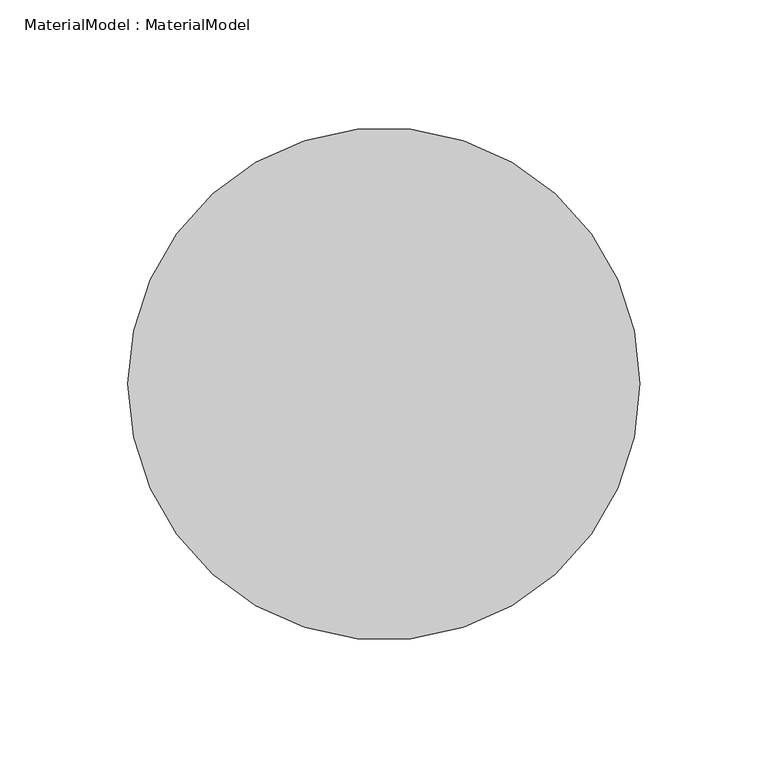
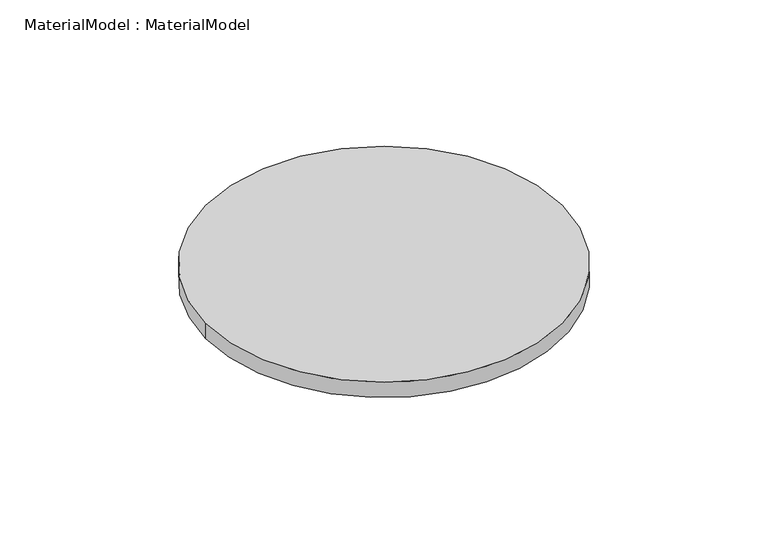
"""IFC4 building model written with IfcOpenShell, lengths in millimetres: proxy geometry, MaterialModel : MaterialModel."""

import ifcopenshell
import ifcopenshell.guid

model = None  # the IFC model being written
_history = None  # IfcOwnerHistory: only IFC2X3 demands one
_inside = {}  # id of a spatial element -> (the spatial element, [elements in it])
_under = {}  # id of a project, library or spatial element -> (it, [spatial elements below it])
_declared = {}  # id of a project -> (the project, [libraries it declares])
_typed = {}  # id of a type object -> (the type object, [elements of that type])
_made_of = {}  # id of a material, layer set ... -> (it, [elements and type objects made of it])


def new_model(schema):
    """Start an empty IFC model of exactly this schema.

    Asked for "IFC4X3", IfcOpenShell would pick the latest addendum, in which some entities
    have other attributes; the version numbers below select the first issue.
    IFC2X3 requires an IfcOwnerHistory on every rooted entity: one is made here for all.
    """
    global model, _history
    if schema == "IFC4X3":
        model = ifcopenshell.file(schema_version=(4, 3, 0, 0))
    else:
        model = ifcopenshell.file(schema=schema)
    _inside.clear()
    _under.clear()
    _declared.clear()
    _typed.clear()
    _made_of.clear()
    _history = None
    if model.schema == "IFC2X3":
        org = make("IfcOrganization", Name="unknown")
        user = make(
            "IfcPersonAndOrganization",
            ThePerson=make("IfcPerson", FamilyName="unknown"),
            TheOrganization=org,
        )
        app = make(
            "IfcApplication",
            ApplicationDeveloper=org,
            Version="unknown",
            ApplicationFullName="unknown",
            ApplicationIdentifier="unknown",
        )
        _history = make(
            "IfcOwnerHistory",
            OwningUser=user,
            OwningApplication=app,
            ChangeAction="ADDED",
            CreationDate=0,
        )
    return model


def make(cls, **values):
    """One entity of the class cls with the attributes given. An attribute that is None is left unset."""
    return model.create_entity(
        cls, **{name: value for name, value in values.items() if value is not None}
    )


def rooted(cls, **values):
    """An entity with a GlobalId (a new one), such as an element, a storey or a relation."""
    return make(cls, GlobalId=ifcopenshell.guid.new(), OwnerHistory=_history, **values)


def si_unit(unit_type, name, prefix=None):
    """IfcSIUnit, for example si_unit("LENGTHUNIT", "METRE", prefix="MILLI")."""
    return make("IfcSIUnit", UnitType=unit_type, Prefix=prefix, Name=name)


def assignment(units):
    """IfcUnitAssignment: the units of a project."""
    return None if units is None else make("IfcUnitAssignment", Units=units)


def point(xyz):
    """IfcCartesianPoint."""
    return None if xyz is None else make("IfcCartesianPoint", Coordinates=xyz)


def direction(xyz):
    """IfcDirection."""
    return None if xyz is None else make("IfcDirection", DirectionRatios=xyz)


def frame(location, z_axis=None, x_axis=None):
    """IfcAxis2Placement3D, a coordinate frame: its origin and axes. An axis left out is left unset."""
    return make(
        "IfcAxis2Placement3D",
        Location=point(location),
        Axis=direction(z_axis),
        RefDirection=direction(x_axis),
    )


def frame_2d(location, x_axis=None):
    """IfcAxis2Placement2D, a coordinate frame in the plane: its origin and x axis."""
    return make(
        "IfcAxis2Placement2D", Location=point(location), RefDirection=direction(x_axis)
    )


def origin():
    """The frame at (0, 0, 0) with its axes left unset."""
    return frame((0.0, 0.0, 0.0))


def origin_with_axes():
    """The frame at (0, 0, 0) with the z axis (0, 0, 1) and the x axis (1, 0, 0) written out."""
    return frame((0.0, 0.0, 0.0), z_axis=(0.0, 0.0, 1.0), x_axis=(1.0, 0.0, 0.0))


def origin_2d():
    """The frame at (0, 0) in the plane with its x axis left unset."""
    return frame_2d((0.0, 0.0))


def place(relative_to, where):
    """IfcLocalPlacement: puts the frame where relative to a parent placement (None: the world)."""
    return make(
        "IfcLocalPlacement", PlacementRelTo=relative_to, RelativePlacement=where
    )


def context(
    kind, dimensions, precision=None, world=None, true_north=None, identifier=None
):
    """IfcGeometricRepresentationContext, for example the 3D "Model" context."""
    return make(
        "IfcGeometricRepresentationContext",
        ContextIdentifier=identifier,
        ContextType=kind,
        CoordinateSpaceDimension=dimensions,
        Precision=precision,
        WorldCoordinateSystem=world,
        TrueNorth=true_north,
    )


def project(units=None, contexts=None):
    """IfcProject with its units and contexts."""
    return rooted(
        "IfcProject",
        Name="project",
        RepresentationContexts=contexts,
        UnitsInContext=assignment(units),
    )


def spatial(cls, under=None, at=None, **own):
    """A site, building, storey or space (cls), placed at a placement, below another one or the project."""
    s = rooted(cls, ObjectPlacement=at, **own)
    if under is not None:
        _under.setdefault(under.id(), (under, []))[1].append(s)
    return s


def circle_curve(where, radius):
    """IfcCircle in the frame where."""
    return make("IfcCircle", Position=where, Radius=radius)


def trimmed(basis, trim1, trim2, sense, master):
    """IfcTrimmedCurve: the piece of a basis curve between two trims."""
    return make(
        "IfcTrimmedCurve",
        BasisCurve=basis,
        Trim1=trim1,
        Trim2=trim2,
        SenseAgreement=sense,
        MasterRepresentation=master,
    )


def segment(curve, same_sense, transition):
    """IfcCompositeCurveSegment."""
    return make(
        "IfcCompositeCurveSegment",
        Transition=transition,
        SameSense=same_sense,
        ParentCurve=curve,
    )


def composite_curve(segments, self_intersect=None):
    """IfcCompositeCurve: segments joined end to end."""
    return make("IfcCompositeCurve", Segments=segments, SelfIntersect=self_intersect)


def outline(outer, holes=None, kind="AREA"):
    """IfcArbitraryClosedProfileDef: a profile drawn as a closed curve; with holes, ...WithVoids."""
    if holes is None:
        return make("IfcArbitraryClosedProfileDef", ProfileType=kind, OuterCurve=outer)
    return make(
        "IfcArbitraryProfileDefWithVoids",
        ProfileType=kind,
        OuterCurve=outer,
        InnerCurves=holes,
    )


def extrude(swept, where, along, depth):
    """IfcExtrudedAreaSolid: the profile swept, set in the frame where, extruded along a direction by depth."""
    return make(
        "IfcExtrudedAreaSolid",
        SweptArea=swept,
        Position=where,
        ExtrudedDirection=direction(along),
        Depth=depth,
    )


def shape(context_of_items, identifier, shape_type, items):
    """IfcShapeRepresentation: the items that make up one representation, for example the "Body"."""
    return make(
        "IfcShapeRepresentation",
        ContextOfItems=context_of_items,
        RepresentationIdentifier=identifier,
        RepresentationType=shape_type,
        Items=items,
    )


def source(mapping_origin, context_of_items, identifier, shape_type, items):
    """IfcRepresentationMap: a shape defined once, which mapped items show again and again."""
    return make(
        "IfcRepresentationMap",
        MappingOrigin=mapping_origin,
        MappedRepresentation=shape(context_of_items, identifier, shape_type, items),
    )


def transform(
    local_origin,
    x_axis=None,
    y_axis=None,
    z_axis=None,
    scale=None,
    scale2=None,
    scale3=None,
    uniform=True,
):
    """IfcCartesianTransformationOperator3D, or its non-uniform kind. x_axis, y_axis, z_axis: its Axis1, 2, 3."""
    if uniform:
        return make(
            "IfcCartesianTransformationOperator3D",
            Axis1=direction(x_axis),
            Axis2=direction(y_axis),
            LocalOrigin=point(local_origin),
            Scale=scale,
            Axis3=direction(z_axis),
        )
    return make(
        "IfcCartesianTransformationOperator3DnonUniform",
        Axis1=direction(x_axis),
        Axis2=direction(y_axis),
        LocalOrigin=point(local_origin),
        Scale=scale,
        Axis3=direction(z_axis),
        Scale2=scale2,
        Scale3=scale3,
    )


def mapped(mapping_source, mapping_target):
    """IfcMappedItem: shows the shape of a source again, moved by a transform."""
    return make(
        "IfcMappedItem", MappingSource=mapping_source, MappingTarget=mapping_target
    )


def made_of(thing, what):
    """Note that an element or type object is made of a material, layer set ...; save() writes the relation."""
    if what is not None:
        _made_of.setdefault(what.id(), (what, []))[1].append(thing)
    return thing


def element(
    cls,
    number,
    at=None,
    inside=None,
    cuts=None,
    type_object=None,
    material=None,
    context=None,
    identifier="Body",
    shape_type=None,
    held_by="IfcProductDefinitionShape",
    body=None,
    shapes=None,
    **own,
):
    """One element of the class cls, such as IfcWall. Its Tag is "e" and its number.

    at: its placement. inside: the storey or other place that contains it. cuts: it is an
    opening in that element (IfcRelVoidsElement). A single representation is given by context,
    identifier, shape_type and body (its items); several are given by shapes. held_by: the class
    of the entity that holds the representations. save() writes the other relations.
    """
    e = rooted(cls, Tag="e%d" % number, ObjectPlacement=at, **own)
    if body is not None:
        shapes = [shape(context, identifier, shape_type, body)]
    if shapes is not None:
        e.Representation = make(held_by, Representations=shapes)
    if inside is not None:
        _inside.setdefault(inside.id(), (inside, []))[1].append(e)
    if cuts is not None:
        rooted(
            "IfcRelVoidsElement", RelatingBuildingElement=cuts, RelatedOpeningElement=e
        )
    if type_object is not None:
        _typed.setdefault(type_object.id(), (type_object, []))[1].append(e)
    return made_of(e, material)


def aggregate(whole, parts):
    """IfcRelAggregates: a whole, such as a stair, and the parts it consists of."""
    return rooted("IfcRelAggregates", RelatingObject=whole, RelatedObjects=parts)


def save(model, path):
    """Write the relations noted so far, then the file.

    IfcRelAggregates (storeys below a building ...), IfcRelContainedInSpatialStructure (elements
    in a storey), IfcRelDefinesByType, IfcRelAssociatesMaterial and IfcRelDeclares: one each for
    every whole, place, type object, material and project.
    """
    for whole, parts in _under.values():
        aggregate(whole, parts)
    for where, things in _inside.values():
        rooted(
            "IfcRelContainedInSpatialStructure",
            RelatedElements=things,
            RelatingStructure=where,
        )
    for kind, things in _typed.values():
        rooted("IfcRelDefinesByType", RelatedObjects=things, RelatingType=kind)
    for what, things in _made_of.values():
        rooted("IfcRelAssociatesMaterial", RelatedObjects=things, RelatingMaterial=what)
    for by, libraries in _declared.values():
        rooted("IfcRelDeclares", RelatingContext=by, RelatedDefinitions=libraries)
    model.write(path)


def materialmodel_materialmodel_a045d503(model_context):
    return source(origin(), model_context, "Body", "SweptSolid", [
        extrude(outline(composite_curve([segment(trimmed(circle_curve(origin_2d(), 100.0), [point((-100.0, 0.0))], [point((100.0, 0.0))], False, "CARTESIAN"), True, "CONTINUOUS"), segment(trimmed(circle_curve(origin_2d(), 100.0), [point((100.0, 0.0))], [point((-100.0, 0.0))], False, "CARTESIAN"), True, "CONTINUOUS")], self_intersect=False)), origin_with_axes(), (0.0, 0.0, 1.0), 9.142525),
    ])


if __name__ == "__main__":
    model = new_model("IFC4")
    model_context = context("Model", 3, world=origin())
    ifc_project = project(units=[si_unit("LENGTHUNIT", "METRE", prefix="MILLI")], contexts=[model_context])
    site = spatial("IfcSite", under=ifc_project)
    building = spatial("IfcBuilding", under=site)
    placement = place(None, origin())
    materialmodel_materialmodel_shape = materialmodel_materialmodel_a045d503(model_context)
    element("IfcBuildingElementProxy", 1, Name="MaterialModel : MaterialModel", ObjectType="MaterialModel : MaterialModel", at=placement, inside=building, context=model_context, shape_type="MappedRepresentation", body=[
        mapped(materialmodel_materialmodel_shape, transform((0.0, 0.0, 0.0), x_axis=(1.0, 0.0, 0.0), y_axis=(0.0, 1.0, 0.0), z_axis=(0.0, 0.0, 1.0))),
    ])
    save(model, "model.ifc")
